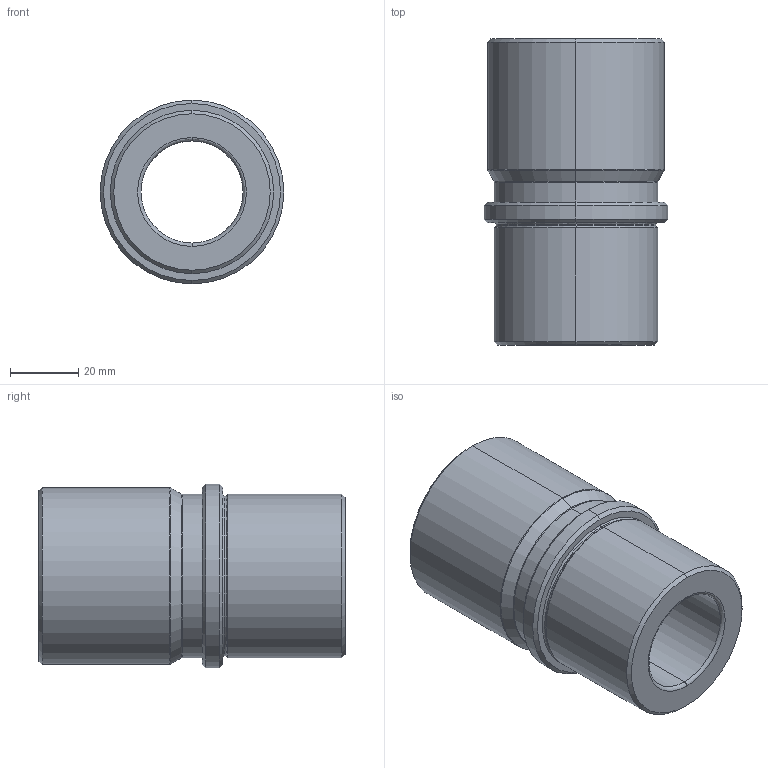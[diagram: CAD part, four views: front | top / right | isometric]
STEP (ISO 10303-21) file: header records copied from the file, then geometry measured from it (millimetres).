
FILE_DESCRIPTION( ( 'STEP AP203' ), '1' );
FILE_NAME( 'D:/Delta 3 D/D32/D32 - 30x36.step', '2002-12-31T23:35:07', ( ' ' ), ( ' ' ), 'XStep 1.0', ' ', ' ' );
FILE_SCHEMA( ( 'CONFIG_CONTROL_DESIGN' ) );
Length unit declared in the file: metre
Products named in the file (1): 1
Bounding box: 54 x 90 x 54 mm (x, y, z)
Volume: 114310.6 mm3; surface area: 25849.6 mm2
Topology: 1 solids, 1 shells, 38 faces, 76 edges, 42 vertices
Faces by surface type: revolution 22, bspline 16
Entity records: 1199 total; most frequent: CARTESIAN_POINT 429, ORIENTED_EDGE 152, DIRECTION 130, EDGE_CURVE 76, AXIS2_PLACEMENT_3D 43, EDGE_LOOP 42, VERTEX_POINT 42, CIRCLE 42
